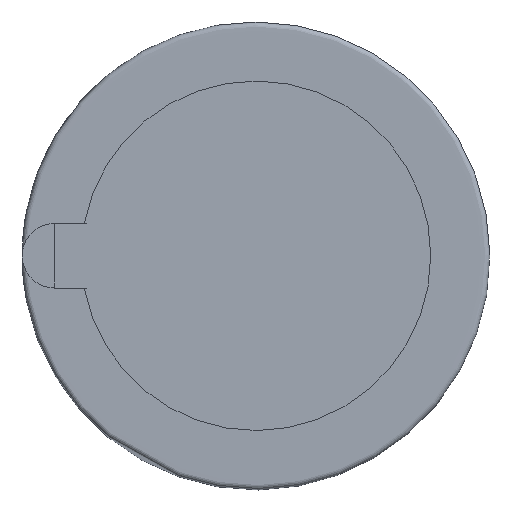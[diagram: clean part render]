
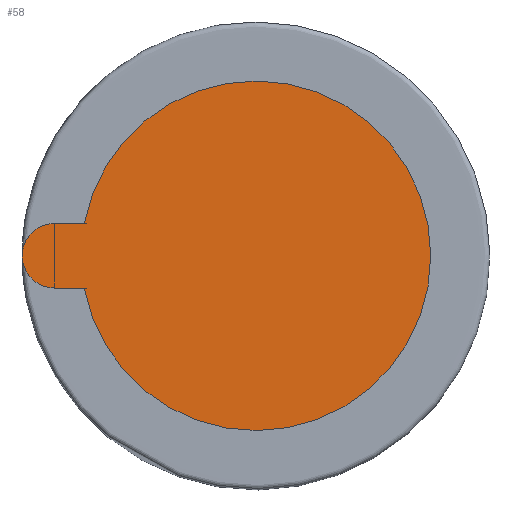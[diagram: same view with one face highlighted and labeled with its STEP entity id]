
A CAD part, top view. The second image highlights one B-rep face of the part: STEP entity #58.
In plain terms, the highlighted planar face has unit normal (0, 0, 1).
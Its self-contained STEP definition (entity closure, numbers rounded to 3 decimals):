
#58=ADVANCED_FACE('',(#127),#128,.T.);
#127=FACE_OUTER_BOUND('',#217,.T.);
#128=PLANE('',#218);
#217=EDGE_LOOP('',(#339,#340,#341,#342));
#218=AXIS2_PLACEMENT_3D('',#343,#344,#345);
#339=ORIENTED_EDGE('',*,*,#481,.F.);
#340=ORIENTED_EDGE('',*,*,#476,.F.);
#341=ORIENTED_EDGE('',*,*,#479,.F.);
#342=ORIENTED_EDGE('',*,*,#467,.F.);
#343=CARTESIAN_POINT('',(-37.5,0.0,50.));
#344=DIRECTION('',(0.0,0.0,1.0));
#345=DIRECTION('',(1.0,0.0,-0.0));
#467=EDGE_CURVE('',#524,#527,#528,.T.);
#476=EDGE_CURVE('',#540,#535,#542,.T.);
#479=EDGE_CURVE('',#527,#540,#545,.T.);
#481=EDGE_CURVE('',#535,#524,#547,.T.);
#524=VERTEX_POINT('',#648);
#527=VERTEX_POINT('',#654);
#528=LINE('',#655,#656);
#535=VERTEX_POINT('',#668);
#540=VERTEX_POINT('',#680);
#542=LINE('',#683,#684);
#545=CIRCLE('',#687,6.0);
#547=CIRCLE('',#689,32.5);
#648=CARTESIAN_POINT('',(-31.941,-6.0,50.));
#654=CARTESIAN_POINT('',(-37.5,-6.0,50.));
#655=CARTESIAN_POINT('',(-18.0,-6.0,50.));
#656=VECTOR('',#740,1.0);
#668=CARTESIAN_POINT('',(-31.941,6.0,50.));
#680=CARTESIAN_POINT('',(-37.5,6.0,50.));
#683=CARTESIAN_POINT('',(-18.0,6.0,50.));
#684=VECTOR('',#745,1.0);
#687=AXIS2_PLACEMENT_3D('',#746,#747,#748);
#689=AXIS2_PLACEMENT_3D('',#749,#750,#751);
#740=DIRECTION('',(-1.0,-0.0,-0.0));
#745=DIRECTION('',(1.0,0.0,0.0));
#746=CARTESIAN_POINT('',(-37.5,0.0,50.));
#747=DIRECTION('',(0.0,0.0,-1.0));
#748=DIRECTION('',(1.0,0.0,0.0));
#749=CARTESIAN_POINT('',(0.0,0.0,50.));
#750=DIRECTION('',(-0.0,0.,-1.0));
#751=DIRECTION('',(0.0,1.0,0.));
